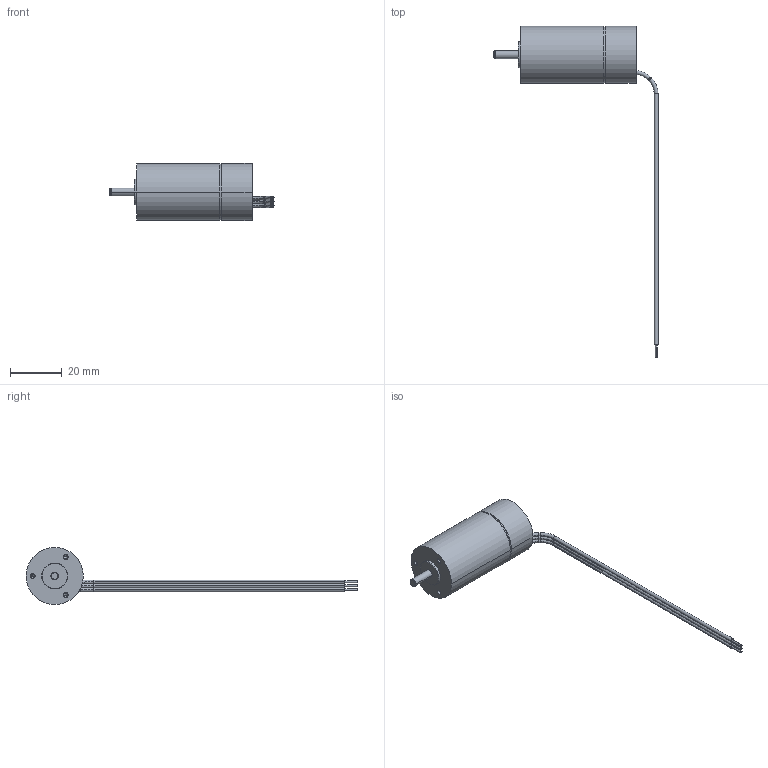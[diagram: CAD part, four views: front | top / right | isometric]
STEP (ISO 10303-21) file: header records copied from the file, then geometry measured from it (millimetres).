
FILE_DESCRIPTION((''),'2;1');
FILE_NAME('1117971_ASM','2010-03-24T',('MMAGPETK'),(''),'PRO/ENGINEER BY PARAMETRIC TECHNOLOGY CORPORATION, 2009230','PRO/ENGINEER BY PARAMETRIC TECHNOLOGY CORPORATION, 2009230','');
FILE_SCHEMA(('CONFIG_CONTROL_DESIGN'));
Length unit declared in the file: millimetre
Products named in the file (1): 1117971_ASM
Bounding box: 63.23 x 127.83 x 22 mm (x, y, z)
Volume: 17513 mm3; surface area: 5834.1 mm2
Topology: 1 solids, 4 shells, 94 faces, 208 edges, 125 vertices
Faces by surface type: cylinder 50, plane 18, torus 18, cone 8
Entity records: 2672 total; most frequent: DIRECTION 518, CARTESIAN_POINT 482, ORIENTED_EDGE 392, AXIS2_PLACEMENT_3D 227, EDGE_CURVE 202, CIRCLE 132, VERTEX_POINT 125, EDGE_LOOP 109
